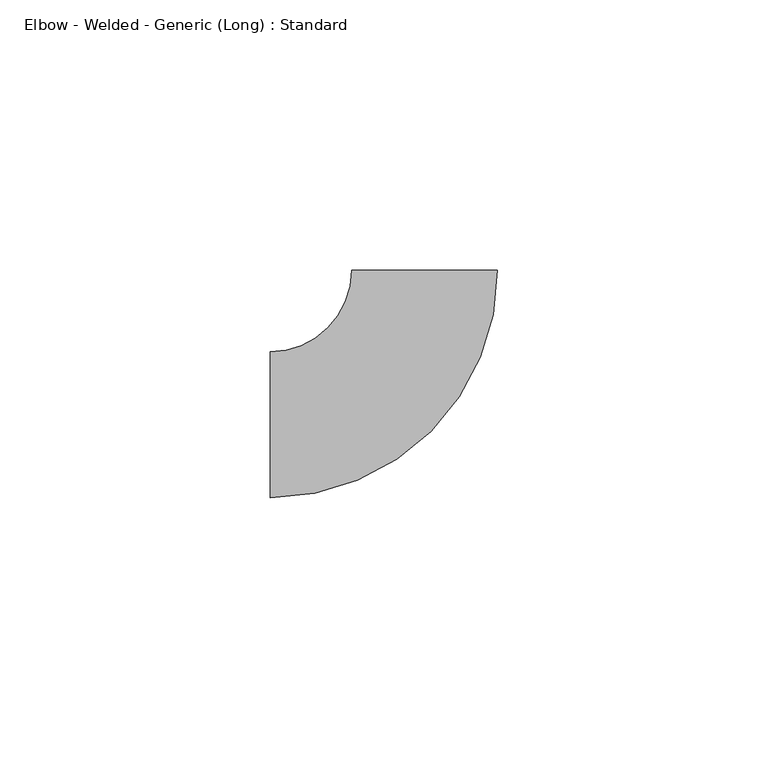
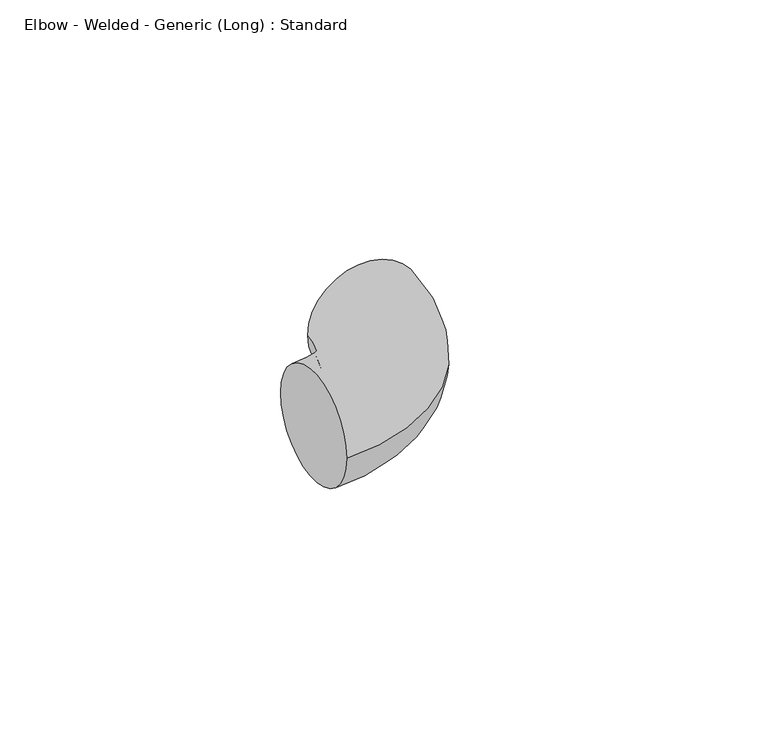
"""IFC4 building model written with IfcOpenShell, lengths in millimetres: pipe fitting geometry, Elbow - Welded - Generic (Long) : Standard."""

from ifc_helpers import new_model, si_unit, point, frame, origin, place, context, project, spatial, circle_curve, ellipse_curve, trimmed, source, transform, mapped, element, save
from ifc_brep_helpers import plane_surface, revolved_surface, advanced_brep


def elbow_welded_generic_long_standard_5dd21582(model_context):
    return source(origin(), model_context, "Body", "AdvancedBrep", [
        advanced_brep(
        [(-28.575, -13.49375, 0.0), (-28.575, 13.49375, 0.0), (13.4656876, 28.5882348, 0.0), (-13.5217994, 28.5617376, 0.0)],
        [
            (0, 1, circle_curve(frame((-28.575, 0.0, 0.0), z_axis=(-1.0, 0.0, 0.0), x_axis=(0.0, 1.0, 0.0)), 13.49375)),
            (1, 0, circle_curve(frame((-28.575, 0.0, 0.0), z_axis=(-1.0, 0.0, 0.0), x_axis=(0.0, 1.0, 0.0)), 13.49375)),
            (2, 3, circle_curve(frame((-0.0280559, 28.5749862, 0.0), z_axis=(-0.0009818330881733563, 0.9999995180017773, 0.0), x_axis=(-0.9999995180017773, -0.0009818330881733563, 0.0)), 13.49375)),
            (3, 2, circle_curve(frame((-0.0280559, 28.5749862, 0.0), z_axis=(-0.0009818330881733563, 0.9999995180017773, 0.0), x_axis=(-0.9999995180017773, -0.0009818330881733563, 0.0)), 13.49375)),
            (3, 1, circle_curve(frame((-28.575, 28.5469579, 0.0), z_axis=(0.0, 0.0, -1.0), x_axis=(0.0, -1.0, 0.0)), 15.0532079)),
            (0, 2, circle_curve(frame((-28.575, 28.5469579, 0.0), z_axis=(0.0, 0.0, 1.0), x_axis=(0.0, -1.0, 0.0)), 42.0407079)),
        ],
        [
            plane_surface(frame((-28.575, 0.0, 0.0), z_axis=(-1.0, 0.0, 0.0), x_axis=(0.0, 0.0, 1.0))),
            plane_surface(frame((-0.0280559, 28.5749862, 0.0), z_axis=(-0.000981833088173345, 0.9999995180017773, 0.0), x_axis=(0.0, 0.0, 1.0))),
            revolved_surface(trimmed(ellipse_curve(frame((-28.575, 0.0, 0.0), z_axis=(-1.0, 0.0, 0.0), x_axis=(0.0, 1.0, 0.0)), 13.49375, 13.49375), [point((-28.575, -13.49375, 0.0))], [point((-28.575, 13.49375, 0.0))], True, "CARTESIAN"), (-28.575, 28.5469579, 0.0), (0.0, 0.0, 1.0)),
            revolved_surface(trimmed(ellipse_curve(frame((-28.575, 0.0, 0.0), z_axis=(-1.0, 0.0, 0.0), x_axis=(0.0, 1.0, 0.0)), 13.49375, 13.49375), [point((-28.575, 13.49375, 0.0))], [point((-28.575, -13.49375, 0.0))], True, "CARTESIAN"), (-28.575, 28.5469579, 0.0), (0.0, 0.0, 1.0)),
        ],
        [
            (0, [[1, 2]]),
            (1, [[3, 4]]),
            (2, [[5, -1, 6, -4]]),
            (3, [[-6, -2, -5, -3]]),
        ],
    ),
    ])


if __name__ == "__main__":
    model = new_model("IFC4")
    model_context = context("Model", 3, world=origin())
    ifc_project = project(units=[si_unit("LENGTHUNIT", "METRE", prefix="MILLI")], contexts=[model_context])
    site = spatial("IfcSite", under=ifc_project)
    building = spatial("IfcBuilding", under=site)
    placement = place(None, origin())
    elbow_welded_generic_long_standard_shape = elbow_welded_generic_long_standard_5dd21582(model_context)
    element("IfcPipeFitting", 1, ObjectType="Elbow - Welded - Generic (Long) : Standard", at=placement, inside=building, context=model_context, shape_type="MappedRepresentation", body=[
        mapped(elbow_welded_generic_long_standard_shape, transform((0.0, 0.0, 0.0), x_axis=(1.0, 0.0, 0.0), y_axis=(0.0, 1.0, 0.0), z_axis=(0.0, 0.0, 1.0))),
    ])
    save(model, "model.ifc")
